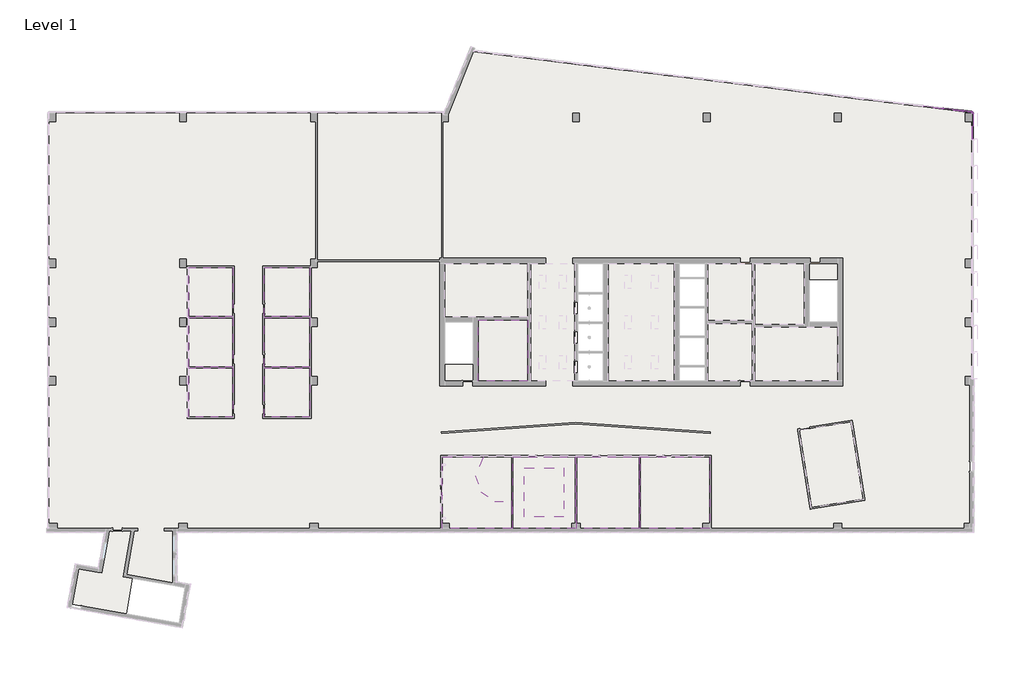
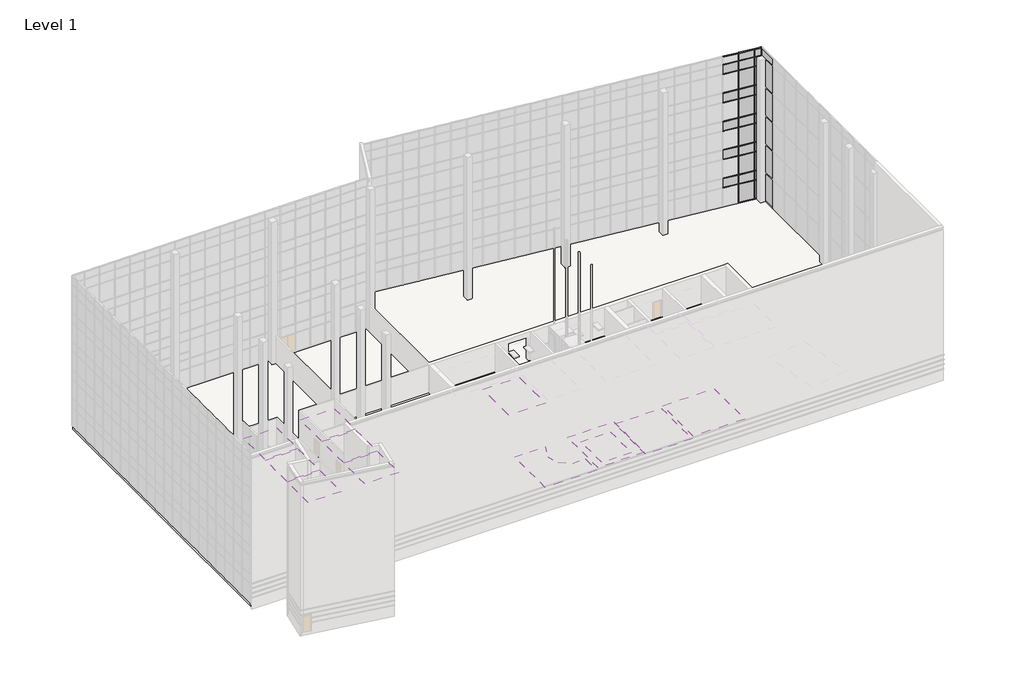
# One storey, part 22 of 23: 57 members, 33 plates, 12 coverings, 1 slab.
"""IFC4 building model written with IfcOpenShell, lengths in millimetres."""

from ifc_helpers import new_model, si_unit, point, frame, frame_2d, origin, place, context, project, spatial, polyline, circle_curve, trimmed, segment, composite_curve, outline, extrude, transform, mapped, element, save
from components import member_eccb456b, member_2b49869a, member_f92b8aa2, member_810865a4, member_f0fea5a5, member_6d5c3e5e, member_9764dd38, member_b8a9be14, member_51d7af99, member_28d637ce, member_84e75425, member_62aeda4f, member_2ab0c01c, system_panel_glazed_14c75400, system_panel_glazed_cc37a7cc, system_panel_glazed_4e55321f, system_panel_glazed_949c9f91, system_panel_solid_5dfe6f83, system_panel_solid_e25e2004, system_panel_solid_b7551183, system_panel_solid_72787f54, system_panel_solid_2f76c253, system_panel_solid_3860f7db

model = new_model("IFC4")

# Units and contexts
model_context = context("Model", 3, world=origin())
ifc_project = project(units=[si_unit("LENGTHUNIT", "METRE", prefix="MILLI")], contexts=[model_context])

# Site, building, storey
site = spatial("IfcSite", under=ifc_project)
building = spatial("IfcBuilding", under=site)
storey = spatial("IfcBuildingStorey", under=building, Name="Level 1", Elevation=0.0)

# Coverings
placement = place(None, origin())
element("IfcCovering", 1, ObjectType="2' x 2' ACT System", at=placement, inside=storey, context=model_context, shape_type="SweptSolid", body=[
    extrude(outline(polyline([(-49131.3999355, -4066.5103492), (-44991.1999355, -4066.5103492), (-44991.1999355, -8511.5103492), (-49131.3999355, -8511.5103492), (-49131.3999355, -4066.5103492)])), frame((0.0, 0.0, 2438.4), z_axis=(0.0, 0.0, 1.0), x_axis=(1.0, 0.0, 0.0)), (0.0, 0.0, 1.0), 57.15),
])
element("IfcCovering", 2, ObjectType="2' x 2' ACT System", at=placement, inside=storey, context=model_context, shape_type="SweptSolid", body=[
    extrude(outline(polyline([(-44991.1999355, -8638.5103492), (-44991.1999355, -13083.5103492), (-49131.3999355, -13083.5103492), (-49131.3999355, -8638.5103492), (-44991.1999355, -8638.5103492)])), frame((0.0, 0.0, 2438.4), z_axis=(0.0, 0.0, 1.0), x_axis=(1.0, 0.0, 0.0)), (0.0, 0.0, 1.0), 57.15),
])
element("IfcCovering", 3, ObjectType="2' x 2' ACT System", at=placement, inside=storey, context=model_context, shape_type="SweptSolid", body=[
    extrude(outline(polyline([(-44991.1999355, -13210.5103492), (-44991.1999355, -17655.5103492), (-49131.3999355, -17655.5103492), (-49131.3999355, -13210.5103492), (-44991.1999355, -13210.5103492)])), frame((0.0, 0.0, 2438.4), z_axis=(0.0, 0.0, 1.0), x_axis=(1.0, 0.0, 0.0)), (0.0, 0.0, 1.0), 57.15),
])
element("IfcCovering", 4, ObjectType="2' x 2' ACT System", at=placement, inside=storey, context=model_context, shape_type="SweptSolid", body=[
    extrude(outline(polyline([(-51987.0856498, -17655.5103492), (-56000.2856498, -17655.5103492), (-56000.2856498, -13210.5103492), (-51987.0856498, -13210.5103492), (-51987.0856498, -17655.5103492)])), frame((0.0, 0.0, 2438.4), z_axis=(0.0, 0.0, 1.0), x_axis=(1.0, 0.0, 0.0)), (0.0, 0.0, 1.0), 57.15),
])
element("IfcCovering", 5, ObjectType="2' x 2' ACT System", at=placement, inside=storey, context=model_context, shape_type="SweptSolid", body=[
    extrude(outline(polyline([(-56000.2856498, -13083.5103492), (-56000.2856498, -8638.5103492), (-51987.0856498, -8638.5103492), (-51987.0856498, -13083.5103492), (-56000.2856498, -13083.5103492)])), frame((0.0, 0.0, 2438.4), z_axis=(0.0, 0.0, 1.0), x_axis=(1.0, 0.0, 0.0)), (0.0, 0.0, 1.0), 57.15),
])
element("IfcCovering", 6, ObjectType="2' x 2' ACT System", at=placement, inside=storey, context=model_context, shape_type="SweptSolid", body=[
    extrude(outline(polyline([(-56000.2856498, -8511.5103492), (-56000.2856498, -4066.5103492), (-51987.0856498, -4066.5103492), (-51987.0856498, -8511.5103492), (-56000.2856498, -8511.5103492)])), frame((0.0, 0.0, 2438.4), z_axis=(0.0, 0.0, 1.0), x_axis=(1.0, 0.0, 0.0)), (0.0, 0.0, 1.0), 57.15),
])
element("IfcCovering", 7, ObjectType="2' x 4' ACT System", at=placement, inside=storey, context=model_context, shape_type="SweptSolid", body=[
    extrude(outline(polyline([(-15145.2927926, -21262.3103492), (-15145.2927926, -27729.7853492), (-20814.0285069, -27729.7853492), (-20814.0285069, -21262.3103492), (-15145.2927926, -21262.3103492)]), holes=[polyline([(-15754.8927926, -21871.9103492), (-20204.4285069, -21871.9103492), (-20204.4285069, -27120.1853492), (-15754.8927926, -27120.1853492), (-15754.8927926, -21871.9103492)])]), frame((0.0, 0.0, 2438.4), z_axis=(0.0, 0.0, 1.0), x_axis=(1.0, 0.0, 0.0)), (0.0, 0.0, 1.0), 57.15),
    extrude(outline(polyline([(-16364.4927926, -22481.5103492), (-16364.4927926, -26510.5853492), (-19594.8285069, -26510.5853492), (-19594.8285069, -22481.5103492), (-16364.4927926, -22481.5103492)])), frame((0.0, 0.0, 2438.4), z_axis=(0.0, 0.0, 1.0), x_axis=(1.0, 0.0, 0.0)), (0.0, 0.0, 1.0), 57.15),
])
element("IfcCovering", 8, ObjectType="2' x 4' ACT System", at=placement, inside=storey, context=model_context, shape_type="SweptSolid", body=[
    extrude(outline(polyline([(-8750.8427926, -21262.3103492), (-8750.8427926, -27729.7853492), (-15018.2927926, -27729.7853492), (-15018.2927926, -21262.3103492), (-8750.8427926, -21262.3103492)]), holes=[polyline([(-14065.7927926, -26713.7853492), (-9766.8427926, -26713.7853492), (-9766.8427926, -22214.8103492), (-14065.7927926, -22214.8103492), (-14065.7927926, -26713.7853492)])]), frame((0.0, 0.0, 2743.2), z_axis=(0.0, 0.0, 1.0), x_axis=(1.0, 0.0, 0.0)), (0.0, 0.0, 1.0), 57.15),
])
element("IfcCovering", 9, ObjectType="2' x 4' ACT System", at=placement, inside=storey, context=model_context, shape_type="SweptSolid", body=[
    extrude(outline(polyline([(-21957.0285069, -22278.3103492), (-21957.0285069, -26713.7853492), (-25571.9927926, -26713.7853492), (-25571.9927926, -22278.3103492), (-21957.0285069, -22278.3103492)])), frame((0.0, 0.0, 2438.4), z_axis=(0.0, 0.0, 1.0), x_axis=(1.0, 0.0, 0.0)), (0.0, 0.0, 1.0), 57.15),
])
element("IfcCovering", 10, ObjectType="GWB on Mtl. Stud", at=placement, inside=storey, context=model_context, shape_type="SweptSolid", body=[
    extrude(outline(polyline([(-25246.3285069, -8829.0103492), (-25246.3285069, -14366.2103492), (-29709.4713641, -14366.2103492), (-29709.4713641, -8829.0103492), (-25246.3285069, -8829.0103492)])), frame((0.0, 0.0, 2438.4), z_axis=(0.0, 0.0, 1.0), x_axis=(1.0, 0.0, 0.0)), (0.0, 0.0, 1.0), 107.95),
])
element("IfcCovering", 11, ObjectType="GWB on Mtl. Stud", at=placement, inside=storey, context=model_context, shape_type="SweptSolid", body=[
    extrude(outline(composite_curve([segment(polyline([(-33004.2142212, -27729.7853492), (-33004.2142212, -21262.3103492), (-29284.0698109, -21262.3103492)]), True, "CONTINUOUS"), segment(trimmed(circle_curve(frame_2d((-27542.3800226, -22968.8598625)), 2438.4), [point((-29284.0698109, -21262.3103492))], [point((-29980.7800226, -22968.8598625))], True, "CARTESIAN"), True, "CONTINUOUS"), segment(trimmed(circle_curve(frame_2d((-27542.3800226, -22968.8598625)), 2438.4), [point((-29980.7800226, -22968.8598625))], [point((-26714.9927926, -25262.595883))], True, "CARTESIAN"), True, "CONTINUOUS"), segment(polyline([(-26714.9927926, -25262.595883), (-26714.9927926, -27729.7853492), (-33004.2142212, -27729.7853492)]), True, "CONTINUOUS")], self_intersect=False), holes=[polyline([(-32127.0605055, -26756.6376676), (-30755.4605055, -26756.6376676), (-30755.4605055, -24927.8376676), (-32127.0605055, -24927.8376676), (-32127.0605055, -26756.6376676)])]), frame((0.0, 0.0, 2438.4), z_axis=(0.0, 0.0, 1.0), x_axis=(1.0, 0.0, 0.0)), (0.0, 0.0, 1.0), 107.95),
])
element("IfcCovering", 12, ObjectType="GWB on Mtl. Stud", at=placement, inside=storey, context=model_context, shape_type="SweptSolid", body=[
    extrude(outline(polyline([(-20941.0285069, -21262.3103492), (-20941.0285069, -27729.7853492), (-26587.9927926, -27729.7853492), (-26587.9927926, -21262.3103492), (-20941.0285069, -21262.3103492)])), frame((0.0, 0.0, 2743.2), z_axis=(0.0, 0.0, 1.0), x_axis=(1.0, 0.0, 0.0)), (0.0, 0.0, 1.0), 107.95),
])

# Members
member_shape = member_eccb456b(model_context)
element("IfcMember", 13, ObjectType="Quad Corner Mullion : 5\" x 5\" Quad Corner", at=placement, inside=storey, context=model_context, shape_type="MappedRepresentation", body=[
    mapped(member_shape, transform((15106.8054088, 9928.5486536, 0.0), x_axis=(0.0, 0.0, -1.0), y_axis=(-1.0, 0.0, 0.0), z_axis=(0.0, 1.0, 0.0))),
])
member_2_shape = member_2b49869a(model_context)
element("IfcMember", 14, ObjectType="Rectangular Mullion : 2.5\" x 5\" rectangular", at=placement, inside=storey, context=model_context, shape_type="MappedRepresentation", body=[
    mapped(member_2_shape, transform((12451.1844641, 10342.5479595, 2438.4), x_axis=(0.9925461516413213, -0.12186934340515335, 0.0), y_axis=(-0.12186934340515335, -0.9925461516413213, 0.0), z_axis=(0.0, 0.0, -1.0))),
])
member_3_shape = member_f92b8aa2(model_context)
element("IfcMember", 15, ObjectType="Rectangular Mullion : 2.5\" x 5\" rectangular", at=placement, inside=storey, context=model_context, shape_type="MappedRepresentation", body=[
    mapped(member_3_shape, transform((14266.3528662, 10119.6733043, 18288.0), x_axis=(0.9925461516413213, -0.12186934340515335, 0.0), y_axis=(-0.12186934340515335, -0.9925461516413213, 0.0), z_axis=(0.0, 0.0, -1.0))),
])
element("IfcMember", 16, ObjectType="Rectangular Mullion : 2.5\" x 5\" rectangular", at=placement, inside=storey, context=model_context, shape_type="MappedRepresentation", body=[
    mapped(member_3_shape, transform((12451.1844641, 10342.5479595, 18288.0), x_axis=(0.9925461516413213, -0.12186934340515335, 0.0), y_axis=(-0.12186934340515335, -0.9925461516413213, 0.0), z_axis=(0.0, 0.0, -1.0))),
])
member_4_shape = member_810865a4(model_context)
element("IfcMember", 17, ObjectType="Rectangular Mullion : 2.5\" x 5\" rectangular", at=placement, inside=storey, context=model_context, shape_type="MappedRepresentation", body=[
    mapped(member_4_shape, transform((14266.3528662, 10119.6733043, 14630.4), x_axis=(0.9925461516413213, -0.12186934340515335, 0.0), y_axis=(-0.12186934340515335, -0.9925461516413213, 0.0), z_axis=(0.0, 0.0, -1.0))),
])
element("IfcMember", 18, ObjectType="Rectangular Mullion : 2.5\" x 5\" rectangular", at=placement, inside=storey, context=model_context, shape_type="MappedRepresentation", body=[
    mapped(member_4_shape, transform((14266.3528662, 10119.6733043, 10972.8), x_axis=(0.9925461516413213, -0.12186934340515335, 0.0), y_axis=(-0.12186934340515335, -0.9925461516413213, 0.0), z_axis=(0.0, 0.0, -1.0))),
])
element("IfcMember", 19, ObjectType="Rectangular Mullion : 2.5\" x 5\" rectangular", at=placement, inside=storey, context=model_context, shape_type="MappedRepresentation", body=[
    mapped(member_4_shape, transform((14266.3528662, 10119.6733043, 7315.2), x_axis=(0.9925461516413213, -0.12186934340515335, 0.0), y_axis=(-0.12186934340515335, -0.9925461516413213, 0.0), z_axis=(0.0, 0.0, -1.0))),
])
element("IfcMember", 20, ObjectType="Rectangular Mullion : 2.5\" x 5\" rectangular", at=placement, inside=storey, context=model_context, shape_type="MappedRepresentation", body=[
    mapped(member_4_shape, transform((14266.3528662, 10119.6733043, 3657.6), x_axis=(0.9925461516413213, -0.12186934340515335, 0.0), y_axis=(-0.12186934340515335, -0.9925461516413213, 0.0), z_axis=(0.0, 0.0, -1.0))),
])
element("IfcMember", 21, ObjectType="Rectangular Mullion : 2.5\" x 5\" rectangular", at=placement, inside=storey, context=model_context, shape_type="MappedRepresentation", body=[
    mapped(member_4_shape, transform((12451.1844641, 10342.5479595, 14630.4), x_axis=(0.9925461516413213, -0.12186934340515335, 0.0), y_axis=(-0.12186934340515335, -0.9925461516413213, 0.0), z_axis=(0.0, 0.0, -1.0))),
])
element("IfcMember", 22, ObjectType="Rectangular Mullion : 2.5\" x 5\" rectangular", at=placement, inside=storey, context=model_context, shape_type="MappedRepresentation", body=[
    mapped(member_4_shape, transform((12451.1844641, 10342.5479595, 10972.8), x_axis=(0.9925461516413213, -0.12186934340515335, 0.0), y_axis=(-0.12186934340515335, -0.9925461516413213, 0.0), z_axis=(0.0, 0.0, -1.0))),
])
element("IfcMember", 23, ObjectType="Rectangular Mullion : 2.5\" x 5\" rectangular", at=placement, inside=storey, context=model_context, shape_type="MappedRepresentation", body=[
    mapped(member_4_shape, transform((12451.1844641, 10342.5479595, 7315.2), x_axis=(0.9925461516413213, -0.12186934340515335, 0.0), y_axis=(-0.12186934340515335, -0.9925461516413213, 0.0), z_axis=(0.0, 0.0, -1.0))),
])
element("IfcMember", 24, ObjectType="Rectangular Mullion : 2.5\" x 5\" rectangular", at=placement, inside=storey, context=model_context, shape_type="MappedRepresentation", body=[
    mapped(member_4_shape, transform((12451.1844641, 10342.5479595, 3657.6), x_axis=(0.9925461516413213, -0.12186934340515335, 0.0), y_axis=(-0.12186934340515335, -0.9925461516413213, 0.0), z_axis=(0.0, 0.0, -1.0))),
])
member_5_shape = member_f0fea5a5(model_context)
element("IfcMember", 25, ObjectType="Rectangular Mullion : 2.5\" x 5\" rectangular", at=placement, inside=storey, context=model_context, shape_type="MappedRepresentation", body=[
    mapped(member_5_shape, transform((12451.1844641, 10342.5479595, 0.0), x_axis=(0.9925461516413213, -0.12186934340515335, 0.0), y_axis=(-0.12186934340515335, -0.9925461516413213, 0.0), z_axis=(0.0, 0.0, -1.0))),
])
element("IfcMember", 26, ObjectType="Rectangular Mullion : 2.5\" x 5\" rectangular", at=placement, inside=storey, context=model_context, shape_type="MappedRepresentation", body=[
    mapped(member_5_shape, transform((14266.3528662, 10119.6733043, 0.0), x_axis=(0.9925461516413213, -0.12186934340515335, 0.0), y_axis=(-0.12186934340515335, -0.9925461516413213, 0.0), z_axis=(0.0, 0.0, -1.0))),
])
element("IfcMember", 27, ObjectType="Rectangular Mullion : 2.5\" x 5\" rectangular", at=placement, inside=storey, context=model_context, shape_type="MappedRepresentation", body=[
    mapped(member_2_shape, transform((14266.3528662, 10119.6733043, 2438.4), x_axis=(0.9925461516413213, -0.12186934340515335, 0.0), y_axis=(-0.12186934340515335, -0.9925461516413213, 0.0), z_axis=(0.0, 0.0, -1.0))),
])
member_6_shape = member_6d5c3e5e(model_context)
element("IfcMember", 28, ObjectType="Rectangular Mullion : 2.5\" x 5\" rectangular", at=placement, inside=storey, context=model_context, shape_type="MappedRepresentation", body=[
    mapped(member_6_shape, transform((14234.8395259, 10123.542656, 19304.0), x_axis=(0.0, 0.0, 1.0), y_axis=(-0.12186934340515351, -0.9925461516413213, 0.0), z_axis=(0.9925461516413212, -0.1218693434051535, 0.0))),
])
element("IfcMember", 29, ObjectType="Rectangular Mullion : 2.5\" x 5\" rectangular", at=placement, inside=storey, context=model_context, shape_type="MappedRepresentation", body=[
    mapped(member_6_shape, transform((12419.6711238, 10346.4173112, 19304.0), x_axis=(0.0, 0.0, 1.0), y_axis=(-0.12186934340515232, -0.9925461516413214, 0.0), z_axis=(0.9925461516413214, -0.12186934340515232, 0.0))),
])
member_7_shape = member_9764dd38(model_context)
element("IfcMember", 30, ObjectType="Rectangular Mullion : 2.5\" x 5\" rectangular", at=placement, inside=storey, context=model_context, shape_type="MappedRepresentation", body=[
    mapped(member_7_shape, transform((14234.8395259, 10123.542656, 17068.8), x_axis=(0.0, 0.0, 1.0), y_axis=(-0.12186934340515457, -0.9925461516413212, 0.0), z_axis=(0.9925461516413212, -0.12186934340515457, 0.0))),
])
element("IfcMember", 31, ObjectType="Rectangular Mullion : 2.5\" x 5\" rectangular", at=placement, inside=storey, context=model_context, shape_type="MappedRepresentation", body=[
    mapped(member_7_shape, transform((12419.6711238, 10346.4173112, 17068.8), x_axis=(0.0, 0.0, 1.0), y_axis=(-0.12186934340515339, -0.9925461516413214, 0.0), z_axis=(0.9925461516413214, -0.12186934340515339, 0.0))),
])
element("IfcMember", 32, ObjectType="Rectangular Mullion : 2.5\" x 5\" rectangular", at=placement, inside=storey, context=model_context, shape_type="MappedRepresentation", body=[
    mapped(member_7_shape, transform((14234.8395259, 10123.542656, 13411.2), x_axis=(0.0, 0.0, 1.0), y_axis=(-0.12186934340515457, -0.9925461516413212, 0.0), z_axis=(0.9925461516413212, -0.12186934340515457, 0.0))),
])
element("IfcMember", 33, ObjectType="Rectangular Mullion : 2.5\" x 5\" rectangular", at=placement, inside=storey, context=model_context, shape_type="MappedRepresentation", body=[
    mapped(member_7_shape, transform((12419.6711238, 10346.4173112, 13411.2), x_axis=(0.0, 0.0, 1.0), y_axis=(-0.12186934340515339, -0.9925461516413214, 0.0), z_axis=(0.9925461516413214, -0.12186934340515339, 0.0))),
])
element("IfcMember", 34, ObjectType="Rectangular Mullion : 2.5\" x 5\" rectangular", at=placement, inside=storey, context=model_context, shape_type="MappedRepresentation", body=[
    mapped(member_7_shape, transform((14234.8395259, 10123.542656, 9753.6), x_axis=(0.0, 0.0, 1.0), y_axis=(-0.12186934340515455, -0.9925461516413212, 0.0), z_axis=(0.9925461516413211, -0.12186934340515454, 0.0))),
])
element("IfcMember", 35, ObjectType="Rectangular Mullion : 2.5\" x 5\" rectangular", at=placement, inside=storey, context=model_context, shape_type="MappedRepresentation", body=[
    mapped(member_7_shape, transform((12419.6711238, 10346.4173112, 9753.6), x_axis=(0.0, 0.0, 1.0), y_axis=(-0.12186934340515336, -0.9925461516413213, 0.0), z_axis=(0.9925461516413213, -0.12186934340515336, 0.0))),
])
element("IfcMember", 36, ObjectType="Rectangular Mullion : 2.5\" x 5\" rectangular", at=placement, inside=storey, context=model_context, shape_type="MappedRepresentation", body=[
    mapped(member_7_shape, transform((14234.8395259, 10123.542656, 6096.0), x_axis=(0.0, 0.0, 1.0), y_axis=(-0.12186934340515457, -0.9925461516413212, 0.0), z_axis=(0.9925461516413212, -0.12186934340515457, 0.0))),
])
element("IfcMember", 37, ObjectType="Rectangular Mullion : 2.5\" x 5\" rectangular", at=placement, inside=storey, context=model_context, shape_type="MappedRepresentation", body=[
    mapped(member_7_shape, transform((12419.6711238, 10346.4173112, 6096.0), x_axis=(0.0, 0.0, 1.0), y_axis=(-0.12186934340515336, -0.9925461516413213, 0.0), z_axis=(0.9925461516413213, -0.12186934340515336, 0.0))),
])
element("IfcMember", 38, ObjectType="Rectangular Mullion : 2.5\" x 5\" rectangular", at=placement, inside=storey, context=model_context, shape_type="MappedRepresentation", body=[
    mapped(member_7_shape, transform((14234.8395259, 10123.542656, 2470.15), x_axis=(0.0, 0.0, 1.0), y_axis=(-0.12186934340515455, -0.9925461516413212, 0.0), z_axis=(0.9925461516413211, -0.12186934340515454, 0.0))),
])
element("IfcMember", 39, ObjectType="Rectangular Mullion : 2.5\" x 5\" rectangular", at=placement, inside=storey, context=model_context, shape_type="MappedRepresentation", body=[
    mapped(member_7_shape, transform((12419.6711238, 10346.4173112, 2470.15), x_axis=(0.0, 0.0, 1.0), y_axis=(-0.12186934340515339, -0.9925461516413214, 0.0), z_axis=(0.9925461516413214, -0.12186934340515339, 0.0))),
])
member_8_shape = member_b8a9be14(model_context)
element("IfcMember", 40, ObjectType="Rectangular Mullion : 2.5\" x 5\" rectangular", at=placement, inside=storey, context=model_context, shape_type="MappedRepresentation", body=[
    mapped(member_8_shape, transform((15019.5307718, 10027.1946859, 19304.0), x_axis=(0.0, 0.0, 1.0), y_axis=(-0.12186934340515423, -0.9925461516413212, 0.0), z_axis=(0.9925461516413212, -0.12186934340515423, 0.0))),
])
member_9_shape = member_51d7af99(model_context)
element("IfcMember", 41, ObjectType="Rectangular Mullion : 2.5\" x 5\" rectangular", at=placement, inside=storey, context=model_context, shape_type="MappedRepresentation", body=[
    mapped(member_9_shape, transform((15019.5307718, 10027.1946859, 17068.8), x_axis=(0.0, 0.0, 1.0), y_axis=(-0.12186934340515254, -0.9925461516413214, 0.0), z_axis=(0.9925461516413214, -0.12186934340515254, 0.0))),
])
element("IfcMember", 42, ObjectType="Rectangular Mullion : 2.5\" x 5\" rectangular", at=placement, inside=storey, context=model_context, shape_type="MappedRepresentation", body=[
    mapped(member_9_shape, transform((15019.5307718, 10027.1946859, 13411.2), x_axis=(0.0, 0.0, 1.0), y_axis=(-0.12186934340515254, -0.9925461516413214, 0.0), z_axis=(0.9925461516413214, -0.12186934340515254, 0.0))),
])
element("IfcMember", 43, ObjectType="Rectangular Mullion : 2.5\" x 5\" rectangular", at=placement, inside=storey, context=model_context, shape_type="MappedRepresentation", body=[
    mapped(member_9_shape, transform((15019.5307718, 10027.1946859, 9753.6), x_axis=(0.0, 0.0, 1.0), y_axis=(-0.12186934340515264, -0.9925461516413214, 0.0), z_axis=(0.9925461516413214, -0.12186934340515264, 0.0))),
])
element("IfcMember", 44, ObjectType="Rectangular Mullion : 2.5\" x 5\" rectangular", at=placement, inside=storey, context=model_context, shape_type="MappedRepresentation", body=[
    mapped(member_9_shape, transform((15019.5307718, 10027.1946859, 6096.0), x_axis=(0.0, 0.0, 1.0), y_axis=(-0.12186934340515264, -0.9925461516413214, 0.0), z_axis=(0.9925461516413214, -0.12186934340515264, 0.0))),
])
element("IfcMember", 45, ObjectType="Rectangular Mullion : 2.5\" x 5\" rectangular", at=placement, inside=storey, context=model_context, shape_type="MappedRepresentation", body=[
    mapped(member_6_shape, transform((12482.6978044, 10338.6786079, 0.0), x_axis=(0.0, 0.0, -1.0), y_axis=(-0.12186934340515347, -0.9925461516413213, 0.0), z_axis=(-0.9925461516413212, 0.12186934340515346, 0.0))),
])
element("IfcMember", 46, ObjectType="Rectangular Mullion : 2.5\" x 5\" rectangular", at=placement, inside=storey, context=model_context, shape_type="MappedRepresentation", body=[
    mapped(member_8_shape, transform((14297.8662065, 10115.8039527, 0.0), x_axis=(0.0, 0.0, -1.0), y_axis=(-0.12186934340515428, -0.9925461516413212, 0.0), z_axis=(-0.9925461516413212, 0.12186934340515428, 0.0))),
])
element("IfcMember", 47, ObjectType="Rectangular Mullion : 2.5\" x 5\" rectangular", at=placement, inside=storey, context=model_context, shape_type="MappedRepresentation", body=[
    mapped(member_7_shape, transform((14234.8395259, 10123.542656, 7315.2), x_axis=(0.0, 0.0, 1.0), y_axis=(-0.12186934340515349, -0.9925461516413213, 0.0), z_axis=(0.9925461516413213, -0.12186934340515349, 0.0))),
])
element("IfcMember", 48, ObjectType="Rectangular Mullion : 2.5\" x 5\" rectangular", at=placement, inside=storey, context=model_context, shape_type="MappedRepresentation", body=[
    mapped(member_7_shape, transform((12419.6711238, 10346.4173112, 7315.2), x_axis=(0.0, 0.0, 1.0), y_axis=(-0.12186934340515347, -0.9925461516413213, 0.0), z_axis=(0.9925461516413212, -0.12186934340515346, 0.0))),
])
element("IfcMember", 49, ObjectType="Rectangular Mullion : 2.5\" x 5\" rectangular", at=placement, inside=storey, context=model_context, shape_type="MappedRepresentation", body=[
    mapped(member_7_shape, transform((14234.8395259, 10123.542656, 10972.8), x_axis=(0.0, 0.0, 1.0), y_axis=(-0.12186934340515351, -0.9925461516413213, 0.0), z_axis=(0.9925461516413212, -0.1218693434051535, 0.0))),
])
element("IfcMember", 50, ObjectType="Rectangular Mullion : 2.5\" x 5\" rectangular", at=placement, inside=storey, context=model_context, shape_type="MappedRepresentation", body=[
    mapped(member_7_shape, transform((12419.6711238, 10346.4173112, 10972.8), x_axis=(0.0, 0.0, 1.0), y_axis=(-0.12186934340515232, -0.9925461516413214, 0.0), z_axis=(0.9925461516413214, -0.12186934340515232, 0.0))),
])
element("IfcMember", 51, ObjectType="Rectangular Mullion : 2.5\" x 5\" rectangular", at=placement, inside=storey, context=model_context, shape_type="MappedRepresentation", body=[
    mapped(member_7_shape, transform((12419.6711238, 10346.4173112, 3657.6), x_axis=(0.0, 0.0, 1.0), y_axis=(-0.12186934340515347, -0.9925461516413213, 0.0), z_axis=(0.9925461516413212, -0.12186934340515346, 0.0))),
])
element("IfcMember", 52, ObjectType="Rectangular Mullion : 2.5\" x 5\" rectangular", at=placement, inside=storey, context=model_context, shape_type="MappedRepresentation", body=[
    mapped(member_7_shape, transform((14234.8395259, 10123.542656, 3657.6), x_axis=(0.0, 0.0, 1.0), y_axis=(-0.12186934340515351, -0.9925461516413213, 0.0), z_axis=(0.9925461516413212, -0.1218693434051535, 0.0))),
])
element("IfcMember", 53, ObjectType="Rectangular Mullion : 2.5\" x 5\" rectangular", at=placement, inside=storey, context=model_context, shape_type="MappedRepresentation", body=[
    mapped(member_7_shape, transform((14234.8395259, 10123.542656, 14630.4), x_axis=(0.0, 0.0, 1.0), y_axis=(-0.12186934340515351, -0.9925461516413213, 0.0), z_axis=(0.9925461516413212, -0.1218693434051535, 0.0))),
])
element("IfcMember", 54, ObjectType="Rectangular Mullion : 2.5\" x 5\" rectangular", at=placement, inside=storey, context=model_context, shape_type="MappedRepresentation", body=[
    mapped(member_7_shape, transform((12419.6711238, 10346.4173112, 14630.4), x_axis=(0.0, 0.0, 1.0), y_axis=(-0.12186934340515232, -0.9925461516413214, 0.0), z_axis=(0.9925461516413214, -0.12186934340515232, 0.0))),
])
element("IfcMember", 55, ObjectType="Rectangular Mullion : 2.5\" x 5\" rectangular", at=placement, inside=storey, context=model_context, shape_type="MappedRepresentation", body=[
    mapped(member_7_shape, transform((14234.8395259, 10123.542656, 18288.0), x_axis=(0.0, 0.0, 1.0), y_axis=(-0.12186934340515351, -0.9925461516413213, 0.0), z_axis=(0.9925461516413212, -0.1218693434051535, 0.0))),
])
element("IfcMember", 56, ObjectType="Rectangular Mullion : 2.5\" x 5\" rectangular", at=placement, inside=storey, context=model_context, shape_type="MappedRepresentation", body=[
    mapped(member_7_shape, transform((12419.6711238, 10346.4173112, 18288.0), x_axis=(0.0, 0.0, 1.0), y_axis=(-0.12186934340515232, -0.9925461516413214, 0.0), z_axis=(0.9925461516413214, -0.12186934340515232, 0.0))),
])
element("IfcMember", 57, ObjectType="Rectangular Mullion : 2.5\" x 5\" rectangular", at=placement, inside=storey, context=model_context, shape_type="MappedRepresentation", body=[
    mapped(member_9_shape, transform((15019.5307718, 10027.1946859, 7315.2), x_axis=(0.0, 0.0, 1.0), y_axis=(-0.12186934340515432, -0.9925461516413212, 0.0), z_axis=(0.9925461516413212, -0.12186934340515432, 0.0))),
])
element("IfcMember", 58, ObjectType="Rectangular Mullion : 2.5\" x 5\" rectangular", at=placement, inside=storey, context=model_context, shape_type="MappedRepresentation", body=[
    mapped(member_9_shape, transform((15019.5307718, 10027.1946859, 10972.8), x_axis=(0.0, 0.0, 1.0), y_axis=(-0.12186934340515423, -0.9925461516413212, 0.0), z_axis=(0.9925461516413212, -0.12186934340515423, 0.0))),
])
element("IfcMember", 59, ObjectType="Rectangular Mullion : 2.5\" x 5\" rectangular", at=placement, inside=storey, context=model_context, shape_type="MappedRepresentation", body=[
    mapped(member_9_shape, transform((15019.5307718, 10027.1946859, 3657.6), x_axis=(0.0, 0.0, 1.0), y_axis=(-0.12186934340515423, -0.9925461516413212, 0.0), z_axis=(0.9925461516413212, -0.12186934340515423, 0.0))),
])
element("IfcMember", 60, ObjectType="Rectangular Mullion : 2.5\" x 5\" rectangular", at=placement, inside=storey, context=model_context, shape_type="MappedRepresentation", body=[
    mapped(member_9_shape, transform((15019.5307718, 10027.1946859, 14630.4), x_axis=(0.0, 0.0, 1.0), y_axis=(-0.12186934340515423, -0.9925461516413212, 0.0), z_axis=(0.9925461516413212, -0.12186934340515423, 0.0))),
])
element("IfcMember", 61, ObjectType="Rectangular Mullion : 2.5\" x 5\" rectangular", at=placement, inside=storey, context=model_context, shape_type="MappedRepresentation", body=[
    mapped(member_9_shape, transform((15019.5307718, 10027.1946859, 18288.0), x_axis=(0.0, 0.0, 1.0), y_axis=(-0.12186934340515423, -0.9925461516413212, 0.0), z_axis=(0.9925461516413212, -0.12186934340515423, 0.0))),
])
element("IfcMember", 62, ObjectType="Rectangular Mullion : 2.5\" x 5\" rectangular", at=placement, inside=storey, context=model_context, shape_type="MappedRepresentation", body=[
    mapped(member_9_shape, transform((15019.5307718, 10027.1946859, 2438.4), x_axis=(0.0, 0.0, 1.0), y_axis=(-0.12186934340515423, -0.9925461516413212, 0.0), z_axis=(0.9925461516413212, -0.12186934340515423, 0.0))),
])
member_10_shape = member_28d637ce(model_context)
element("IfcMember", 63, ObjectType="V Corner Mullion : 5\" V Corner", at=placement, inside=storey, context=model_context, shape_type="MappedRepresentation", body=[
    mapped(member_10_shape, transform((15106.8054088, 10016.4787079, 0.0), x_axis=(0.9925461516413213, -0.12186934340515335, 0.0), y_axis=(-0.12186934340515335, -0.9925461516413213, 0.0), z_axis=(0.0, 0.0, -1.0))),
])
member_11_shape = member_84e75425(model_context)
element("IfcMember", 64, ObjectType="V Corner Mullion : 5\" V Corner", at=placement, inside=storey, context=model_context, shape_type="MappedRepresentation", body=[
    mapped(member_11_shape, transform((15106.8054088, 10016.4787079, 2438.4), x_axis=(0.9925461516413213, -0.12186934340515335, 0.0), y_axis=(-0.12186934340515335, -0.9925461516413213, 0.0), z_axis=(0.0, 0.0, -1.0))),
])
member_12_shape = member_62aeda4f(model_context)
element("IfcMember", 65, ObjectType="V Corner Mullion : 5\" V Corner", at=placement, inside=storey, context=model_context, shape_type="MappedRepresentation", body=[
    mapped(member_12_shape, transform((15106.8054088, 10016.4787079, 18288.0), x_axis=(0.9925461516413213, -0.12186934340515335, 0.0), y_axis=(-0.12186934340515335, -0.9925461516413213, 0.0), z_axis=(0.0, 0.0, -1.0))),
])
member_13_shape = member_2ab0c01c(model_context)
element("IfcMember", 66, ObjectType="V Corner Mullion : 5\" V Corner", at=placement, inside=storey, context=model_context, shape_type="MappedRepresentation", body=[
    mapped(member_13_shape, transform((15106.8054088, 10016.4787079, 14630.4), x_axis=(0.9925461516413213, -0.12186934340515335, 0.0), y_axis=(-0.12186934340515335, -0.9925461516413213, 0.0), z_axis=(0.0, 0.0, -1.0))),
])
element("IfcMember", 67, ObjectType="V Corner Mullion : 5\" V Corner", at=placement, inside=storey, context=model_context, shape_type="MappedRepresentation", body=[
    mapped(member_13_shape, transform((15106.8054088, 10016.4787079, 10972.8), x_axis=(0.9925461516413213, -0.12186934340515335, 0.0), y_axis=(-0.12186934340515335, -0.9925461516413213, 0.0), z_axis=(0.0, 0.0, -1.0))),
])
element("IfcMember", 68, ObjectType="V Corner Mullion : 5\" V Corner", at=placement, inside=storey, context=model_context, shape_type="MappedRepresentation", body=[
    mapped(member_13_shape, transform((15106.8054088, 10016.4787079, 7315.2), x_axis=(0.9925461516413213, -0.12186934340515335, 0.0), y_axis=(-0.12186934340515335, -0.9925461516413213, 0.0), z_axis=(0.0, 0.0, -1.0))),
])
element("IfcMember", 69, ObjectType="V Corner Mullion : 5\" V Corner", at=placement, inside=storey, context=model_context, shape_type="MappedRepresentation", body=[
    mapped(member_13_shape, transform((15106.8054088, 10016.4787079, 3657.6), x_axis=(0.9925461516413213, -0.12186934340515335, 0.0), y_axis=(-0.12186934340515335, -0.9925461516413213, 0.0), z_axis=(0.0, 0.0, -1.0))),
])

# Plates
system_panel_glazed_shape = system_panel_glazed_14c75400(model_context)
element("IfcPlate", 70, ObjectType="System Panel : Glazed", at=placement, inside=storey, context=model_context, shape_type="MappedRepresentation", body=[
    mapped(system_panel_glazed_shape, transform((13358.7686652, 10231.1106319, 14662.15), x_axis=(0.9925461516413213, -0.12186934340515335, 0.0), y_axis=(0.12186934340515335, 0.9925461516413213, 0.0), z_axis=(0.0, 0.0, 1.0))),
])
element("IfcPlate", 71, ObjectType="System Panel : Glazed", at=placement, inside=storey, context=model_context, shape_type="MappedRepresentation", body=[
    mapped(system_panel_glazed_shape, transform((13358.7686652, 10231.1106319, 11004.55), x_axis=(0.9925461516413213, -0.12186934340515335, 0.0), y_axis=(0.12186934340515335, 0.9925461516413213, 0.0), z_axis=(0.0, 0.0, 1.0))),
])
element("IfcPlate", 72, ObjectType="System Panel : Glazed", at=placement, inside=storey, context=model_context, shape_type="MappedRepresentation", body=[
    mapped(system_panel_glazed_shape, transform((13358.7686652, 10231.1106319, 7346.95), x_axis=(0.9925461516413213, -0.12186934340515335, 0.0), y_axis=(0.12186934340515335, 0.9925461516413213, 0.0), z_axis=(0.0, 0.0, 1.0))),
])
element("IfcPlate", 73, ObjectType="System Panel : Glazed", at=placement, inside=storey, context=model_context, shape_type="MappedRepresentation", body=[
    mapped(system_panel_glazed_shape, transform((13358.7686652, 10231.1106319, 3689.35), x_axis=(0.9925461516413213, -0.12186934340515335, 0.0), y_axis=(0.12186934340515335, 0.9925461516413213, 0.0), z_axis=(0.0, 0.0, 1.0))),
])
element("IfcPlate", 74, ObjectType="System Panel : Glazed", at=placement, inside=storey, context=model_context, shape_type="MappedRepresentation", body=[
    mapped(system_panel_glazed_shape, transform((13358.7686652, 10231.1106319, 63.5), x_axis=(0.9925461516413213, -0.12186934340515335, 0.0), y_axis=(0.12186934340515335, 0.9925461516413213, 0.0), z_axis=(0.0, 0.0, 1.0))),
])
system_panel_glazed_2_shape = system_panel_glazed_cc37a7cc(model_context)
element("IfcPlate", 75, ObjectType="System Panel : Glazed", at=placement, inside=storey, context=model_context, shape_type="MappedRepresentation", body=[
    mapped(system_panel_glazed_2_shape, transform((14658.6984892, 10071.4993193, 14662.15), x_axis=(0.9925461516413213, -0.12186934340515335, 0.0), y_axis=(0.12186934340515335, 0.9925461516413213, 0.0), z_axis=(0.0, 0.0, 1.0))),
])
element("IfcPlate", 76, ObjectType="System Panel : Glazed", at=placement, inside=storey, context=model_context, shape_type="MappedRepresentation", body=[
    mapped(system_panel_glazed_2_shape, transform((14658.6984892, 10071.4993193, 11004.55), x_axis=(0.9925461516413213, -0.12186934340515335, 0.0), y_axis=(0.12186934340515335, 0.9925461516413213, 0.0), z_axis=(0.0, 0.0, 1.0))),
])
element("IfcPlate", 77, ObjectType="System Panel : Glazed", at=placement, inside=storey, context=model_context, shape_type="MappedRepresentation", body=[
    mapped(system_panel_glazed_2_shape, transform((14658.6984892, 10071.4993193, 7346.95), x_axis=(0.9925461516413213, -0.12186934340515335, 0.0), y_axis=(0.12186934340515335, 0.9925461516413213, 0.0), z_axis=(0.0, 0.0, 1.0))),
])
element("IfcPlate", 78, ObjectType="System Panel : Glazed", at=placement, inside=storey, context=model_context, shape_type="MappedRepresentation", body=[
    mapped(system_panel_glazed_2_shape, transform((14658.6984892, 10071.4993193, 3689.35), x_axis=(0.9925461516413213, -0.12186934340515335, 0.0), y_axis=(0.12186934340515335, 0.9925461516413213, 0.0), z_axis=(0.0, 0.0, 1.0))),
])
system_panel_glazed_3_shape = system_panel_glazed_4e55321f(model_context)
element("IfcPlate", 79, ObjectType="System Panel : Glazed", at=placement, inside=storey, context=model_context, shape_type="MappedRepresentation", body=[
    mapped(system_panel_glazed_3_shape, transform((14658.6984892, 10071.4993193, 63.5), x_axis=(0.9925461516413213, -0.12186934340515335, 0.0), y_axis=(0.12186934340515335, 0.9925461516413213, 0.0), z_axis=(0.0, 0.0, 1.0))),
])
system_panel_glazed_4_shape = system_panel_glazed_949c9f91(model_context)
element("IfcPlate", 80, ObjectType="System Panel : Glazed", at=placement, inside=storey, context=model_context, shape_type="MappedRepresentation", body=[
    mapped(system_panel_glazed_4_shape, transform((15106.8054088, 8758.9233064, 40.7728811), x_axis=(0.0, -1.0, 0.0), y_axis=(1.0, 0.0, 0.0), z_axis=(0.0, 0.0, 1.0))),
])
element("IfcPlate", 81, ObjectType="System Panel : Glazed", at=placement, inside=storey, context=model_context, shape_type="MappedRepresentation", body=[
    mapped(system_panel_glazed_4_shape, transform((15106.8054088, 8758.9233064, 3698.3728811), x_axis=(0.0, -1.0, 0.0), y_axis=(1.0, 0.0, 0.0), z_axis=(0.0, 0.0, 1.0))),
])
element("IfcPlate", 82, ObjectType="System Panel : Glazed", at=placement, inside=storey, context=model_context, shape_type="MappedRepresentation", body=[
    mapped(system_panel_glazed_4_shape, transform((15106.8054088, 8758.9233064, 7355.9728811), x_axis=(0.0, -1.0, 0.0), y_axis=(1.0, 0.0, 0.0), z_axis=(0.0, 0.0, 1.0))),
])
element("IfcPlate", 83, ObjectType="System Panel : Glazed", at=placement, inside=storey, context=model_context, shape_type="MappedRepresentation", body=[
    mapped(system_panel_glazed_4_shape, transform((15106.8054088, 8758.9233064, 11013.5728811), x_axis=(0.0, -1.0, 0.0), y_axis=(1.0, 0.0, 0.0), z_axis=(0.0, 0.0, 1.0))),
])
element("IfcPlate", 84, ObjectType="System Panel : Glazed", at=placement, inside=storey, context=model_context, shape_type="MappedRepresentation", body=[
    mapped(system_panel_glazed_4_shape, transform((15106.8054088, 8758.9233064, 14671.1728811), x_axis=(0.0, -1.0, 0.0), y_axis=(1.0, 0.0, 0.0), z_axis=(0.0, 0.0, 1.0))),
])
system_panel_solid_shape = system_panel_solid_5dfe6f83(model_context)
element("IfcPlate", 85, ObjectType="System Panel : Solid", at=placement, inside=storey, context=model_context, shape_type="MappedRepresentation", body=[
    mapped(system_panel_solid_shape, transform((13358.7686652, 10231.1106319, 18319.75), x_axis=(0.9925461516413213, -0.12186934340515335, 0.0), y_axis=(0.12186934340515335, 0.9925461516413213, 0.0), z_axis=(0.0, 0.0, 1.0))),
])
system_panel_solid_2_shape = system_panel_solid_e25e2004(model_context)
element("IfcPlate", 86, ObjectType="System Panel : Solid", at=placement, inside=storey, context=model_context, shape_type="MappedRepresentation", body=[
    mapped(system_panel_solid_2_shape, transform((13358.7686652, 10231.1106319, 17100.55), x_axis=(0.9925461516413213, -0.12186934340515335, 0.0), y_axis=(0.12186934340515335, 0.9925461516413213, 0.0), z_axis=(0.0, 0.0, 1.0))),
])
element("IfcPlate", 87, ObjectType="System Panel : Solid", at=placement, inside=storey, context=model_context, shape_type="MappedRepresentation", body=[
    mapped(system_panel_solid_2_shape, transform((11543.600263, 10453.9852872, 17100.55), x_axis=(0.9925461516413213, -0.12186934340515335, 0.0), y_axis=(0.12186934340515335, 0.9925461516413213, 0.0), z_axis=(0.0, 0.0, 1.0))),
])
element("IfcPlate", 88, ObjectType="System Panel : Solid", at=placement, inside=storey, context=model_context, shape_type="MappedRepresentation", body=[
    mapped(system_panel_solid_2_shape, transform((13358.7686652, 10231.1106319, 13442.95), x_axis=(0.9925461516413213, -0.12186934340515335, 0.0), y_axis=(0.12186934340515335, 0.9925461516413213, 0.0), z_axis=(0.0, 0.0, 1.0))),
])
element("IfcPlate", 89, ObjectType="System Panel : Solid", at=placement, inside=storey, context=model_context, shape_type="MappedRepresentation", body=[
    mapped(system_panel_solid_2_shape, transform((11543.600263, 10453.9852872, 13442.95), x_axis=(0.9925461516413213, -0.12186934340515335, 0.0), y_axis=(0.12186934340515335, 0.9925461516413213, 0.0), z_axis=(0.0, 0.0, 1.0))),
])
element("IfcPlate", 90, ObjectType="System Panel : Solid", at=placement, inside=storey, context=model_context, shape_type="MappedRepresentation", body=[
    mapped(system_panel_solid_2_shape, transform((13358.7686652, 10231.1106319, 9785.35), x_axis=(0.9925461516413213, -0.12186934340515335, 0.0), y_axis=(0.12186934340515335, 0.9925461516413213, 0.0), z_axis=(0.0, 0.0, 1.0))),
])
element("IfcPlate", 91, ObjectType="System Panel : Solid", at=placement, inside=storey, context=model_context, shape_type="MappedRepresentation", body=[
    mapped(system_panel_solid_2_shape, transform((11543.600263, 10453.9852872, 9785.35), x_axis=(0.9925461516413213, -0.12186934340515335, 0.0), y_axis=(0.12186934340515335, 0.9925461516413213, 0.0), z_axis=(0.0, 0.0, 1.0))),
])
element("IfcPlate", 92, ObjectType="System Panel : Solid", at=placement, inside=storey, context=model_context, shape_type="MappedRepresentation", body=[
    mapped(system_panel_solid_2_shape, transform((13358.7686652, 10231.1106319, 6127.75), x_axis=(0.9925461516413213, -0.12186934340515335, 0.0), y_axis=(0.12186934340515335, 0.9925461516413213, 0.0), z_axis=(0.0, 0.0, 1.0))),
])
element("IfcPlate", 93, ObjectType="System Panel : Solid", at=placement, inside=storey, context=model_context, shape_type="MappedRepresentation", body=[
    mapped(system_panel_solid_2_shape, transform((11543.600263, 10453.9852872, 6127.75), x_axis=(0.9925461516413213, -0.12186934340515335, 0.0), y_axis=(0.12186934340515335, 0.9925461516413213, 0.0), z_axis=(0.0, 0.0, 1.0))),
])
system_panel_solid_3_shape = system_panel_solid_b7551183(model_context)
element("IfcPlate", 94, ObjectType="System Panel : Solid", at=placement, inside=storey, context=model_context, shape_type="MappedRepresentation", body=[
    mapped(system_panel_solid_3_shape, transform((13358.7686652, 10231.1106319, 2501.9), x_axis=(0.9925461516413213, -0.12186934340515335, 0.0), y_axis=(0.12186934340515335, 0.9925461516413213, 0.0), z_axis=(0.0, 0.0, 1.0))),
])
element("IfcPlate", 95, ObjectType="System Panel : Solid", at=placement, inside=storey, context=model_context, shape_type="MappedRepresentation", body=[
    mapped(system_panel_solid_3_shape, transform((11543.600263, 10453.9852872, 2501.9), x_axis=(0.9925461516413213, -0.12186934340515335, 0.0), y_axis=(0.12186934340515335, 0.9925461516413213, 0.0), z_axis=(0.0, 0.0, 1.0))),
])
system_panel_solid_4_shape = system_panel_solid_72787f54(model_context)
element("IfcPlate", 96, ObjectType="System Panel : Solid", at=placement, inside=storey, context=model_context, shape_type="MappedRepresentation", body=[
    mapped(system_panel_solid_4_shape, transform((14658.6984892, 10071.4993193, 18319.75), x_axis=(0.9925461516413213, -0.12186934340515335, 0.0), y_axis=(0.12186934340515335, 0.9925461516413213, 0.0), z_axis=(0.0, 0.0, 1.0))),
])
system_panel_solid_5_shape = system_panel_solid_2f76c253(model_context)
element("IfcPlate", 97, ObjectType="System Panel : Solid", at=placement, inside=storey, context=model_context, shape_type="MappedRepresentation", body=[
    mapped(system_panel_solid_5_shape, transform((14658.6984892, 10071.4993193, 2470.15), x_axis=(0.9925461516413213, -0.12186934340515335, 0.0), y_axis=(0.12186934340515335, 0.9925461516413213, 0.0), z_axis=(0.0, 0.0, 1.0))),
])
element("IfcPlate", 98, ObjectType="System Panel : Solid", at=placement, inside=storey, context=model_context, shape_type="MappedRepresentation", body=[
    mapped(system_panel_solid_5_shape, transform((14658.6984892, 10071.4993193, 17100.55), x_axis=(0.9925461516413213, -0.12186934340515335, 0.0), y_axis=(0.12186934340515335, 0.9925461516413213, 0.0), z_axis=(0.0, 0.0, 1.0))),
])
element("IfcPlate", 99, ObjectType="System Panel : Solid", at=placement, inside=storey, context=model_context, shape_type="MappedRepresentation", body=[
    mapped(system_panel_solid_5_shape, transform((14658.6984892, 10071.4993193, 13442.95), x_axis=(0.9925461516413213, -0.12186934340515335, 0.0), y_axis=(0.12186934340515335, 0.9925461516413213, 0.0), z_axis=(0.0, 0.0, 1.0))),
])
element("IfcPlate", 100, ObjectType="System Panel : Solid", at=placement, inside=storey, context=model_context, shape_type="MappedRepresentation", body=[
    mapped(system_panel_solid_5_shape, transform((14658.6984892, 10071.4993193, 9785.35), x_axis=(0.9925461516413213, -0.12186934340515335, 0.0), y_axis=(0.12186934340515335, 0.9925461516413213, 0.0), z_axis=(0.0, 0.0, 1.0))),
])
element("IfcPlate", 101, ObjectType="System Panel : Solid", at=placement, inside=storey, context=model_context, shape_type="MappedRepresentation", body=[
    mapped(system_panel_solid_5_shape, transform((14658.6984892, 10071.4993193, 6127.75), x_axis=(0.9925461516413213, -0.12186934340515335, 0.0), y_axis=(0.12186934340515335, 0.9925461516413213, 0.0), z_axis=(0.0, 0.0, 1.0))),
])
system_panel_solid_6_shape = system_panel_solid_3860f7db(model_context)
element("IfcPlate", 102, ObjectType="System Panel : Solid", at=placement, inside=storey, context=model_context, shape_type="MappedRepresentation", body=[
    mapped(system_panel_solid_6_shape, transform((15106.8054088, 8758.9233064, 18328.7728811), x_axis=(0.0, -1.0, 0.0), y_axis=(1.0, 0.0, 0.0), z_axis=(0.0, 0.0, 1.0))),
])

# Slab
element("IfcSlab", 103, ObjectType="Steel Bar Joist 14\" - Concrete", at=placement, inside=storey, context=model_context, shape_type="SweptSolid", body=[
    extrude(outline(polyline([(-68660.7599961, -27742.4853492), (-68660.7599961, 9954.2896508), (-32421.4843139, 9954.2896508), (-30175.817983, 15512.5088637), (15043.3054088, 9960.2986536), (15043.3054088, -15034.4255886), (14830.5804088, -15034.4255886), (14830.5804088, -27735.220667), (-57415.8125003, -27735.220667), (-57415.8125003, -32919.911766), (-61087.9334678, -32272.417763), (-61658.0117526, -35505.4923758), (-66551.3983764, -34642.656287), (-65981.3200915, -31409.5816742), (-63880.1342697, -31780.0774261), (-63168.1978494, -27742.4853492), (-68660.7599961, -27742.4853492)]), holes=[polyline([(-32750.2142212, -9032.2103492), (-32750.2142212, -12842.2103492), (-30166.6713641, -12842.2103492), (-30166.6713641, -9032.2103492), (-32750.2142212, -9032.2103492)]), polyline([(-20725.1285069, -3698.2103492), (-20725.1285069, -14366.2103492), (-18385.1284437, -14366.2103492), (-18385.1284437, -3698.2103492), (-20725.1285069, -3698.2103492)]), polyline([(-9157.2427926, -3698.2103492), (-11497.2428559, -3698.2103492), (-11497.2428559, -14366.2103492), (-9157.2427926, -14366.2103492), (-9157.2427926, -3698.2103492)]), polyline([(2867.8429217, -9032.2103492), (2867.8429217, -5222.2103492), (284.3000645, -5222.2103492), (284.3000645, -9032.2103492), (2867.8429217, -9032.2103492)])]), frame((0.0, 0.0, -434.975), z_axis=(0.0, 0.0, 1.0), x_axis=(1.0, 0.0, 0.0)), (0.0, 0.0, 1.0), 434.975),
])

save(model, "model.ifc")
